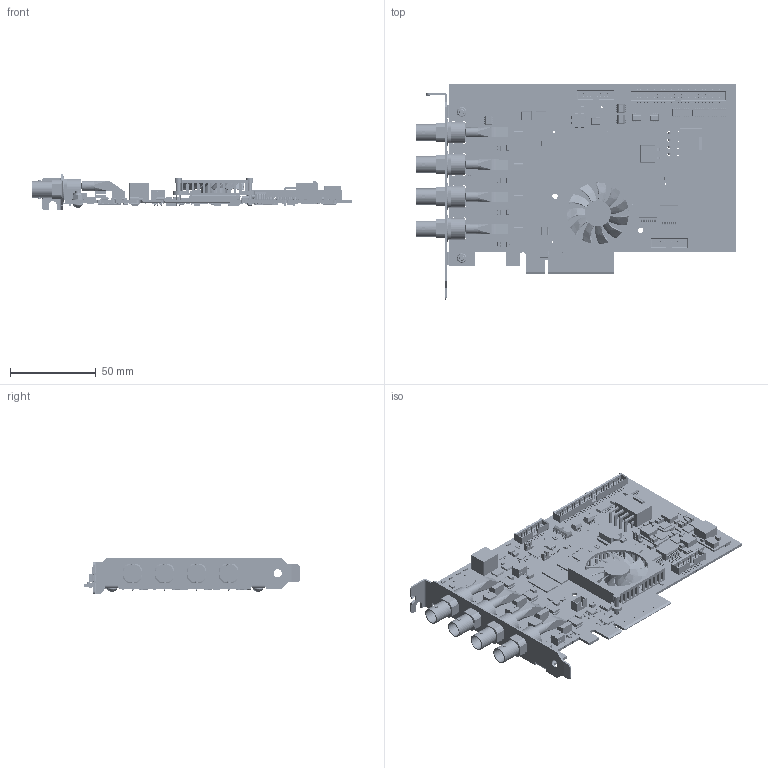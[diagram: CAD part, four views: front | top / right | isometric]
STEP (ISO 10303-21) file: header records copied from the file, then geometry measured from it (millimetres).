
FILE_DESCRIPTION( ( 'Unknown' ), '1' );
FILE_NAME( 'Q:/2003/Product3DModels/mm-ap20c01-0025-0301.stp', 'Unknown', ( 'Unknown' ), ( 'Unknown' ), 'PSStep 17.0.49', 'Unknown', ' ' );
FILE_SCHEMA( ( 'AUTOMOTIVE_DESIGN { 1 0 10303 214 1 1 1 1 }' ) );
Length unit declared in the file: millimetre
Products named in the file (72): Assem1; L3-689; L3-452; L3-1; L3-391; L3-438; L3-654; L3-688; L3-352; L3-92; L3-94; L3-151; L3-651; L3-657; L3-682; L3-119; L3-465; L3-397; L3-125; L3-10; L3-522; L3-687; L3-629; L3-694; L3-127; L3-126; L3-145; L3-692; L3-3; L3-693; L3-172; L3-22; L3-393; L3-72; L3-5; L3-345; L3-96; L3-636; L3-680; L3-18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
Assembly tree (616 placements, depth 2):
  Assem1
    L3-689
    L3-452  x6
    L3-1  x130
    L3-391  x202
    L3-438  x61
    L3-654  x4
    L3-688  x5
    L3-352  x4
    L3-92  x5
    L3-94  x4
    L3-151  x13
    L3-651
    L3-657  x2
    L3-682
    L3-119  x2
    L3-465  x3
    L3-397  x4
    L3-125  x4
    L3-10  x5
    L3-522  x14
    L3-687
    L3-629  x3
    L3-694
    L3-127  x2
    L3-126
    L3-145  x12
    L3-692
    L3-3
    L3-693  x2
    L3-172
    L3-22
    L3-393  x3
    L3-72  x21
    L3-5  x8
    L3-345  x2
    L3-96
    L3-636  x6
    L3-680  x4
    L3-18  x7
    L3-696
    L3-440  x6
    L3-6  x4
    L3-681
    L3-228  x3
    L3-673  x4
    L3-698
    L3-554  x4
    L3-699
    L3-180  x2
    L3-599  x4
    L3-686  x4
    L3-14
    L3-701
    L3-140  x4
    L3-690
    L3-548  x2
    L3-396
    L3-707
    L3-710
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Bounding box: 186.85 x 126.38 x 21.48 mm (x, y, z)
Surface area: 92562 mm2 (no closed solid volume)
Topology: 0 solids, 21378 shells, 21378 faces, 112299 edges, 112084 vertices
Faces by surface type: plane 18394, cylinder 2814, bspline 110, cone 46, torus 14
Full cylindrical faces by diameter (mm): 0.094 x1, 0.144 x6, 0.2 x2, 0.25 x1, 0.3 x3, 0.33 x1, 0.4 x4, 0.5 x13, 0.548 x1, 0.7 x4, 0.75 x1, 0.8 x4, 0.813 x12, 0.886 x1, 1 x12, 1.092 x4, 1.2 x4, 1.27 x13, 1.3 x4, 1.5 x4, 1.8 x24, 1.95 x8, 2.2 x8, 2.313 x1, 2.5 x2, 2.8 x2, 2.9 x8, 3 x5, 3.2 x8, 3.4 x2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
Entity records: 474370 total; most frequent: CARTESIAN_POINT 99058, DIRECTION 65794, VERTEX_POINT 42525, ORIENTED_EDGE 42524, EDGE_CURVE 42524, LINE 35536, VECTOR 35536, AXIS2_PLACEMENT_3D 15129
